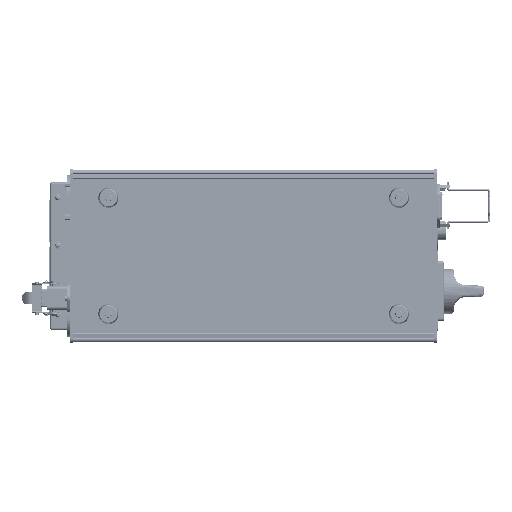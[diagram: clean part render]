
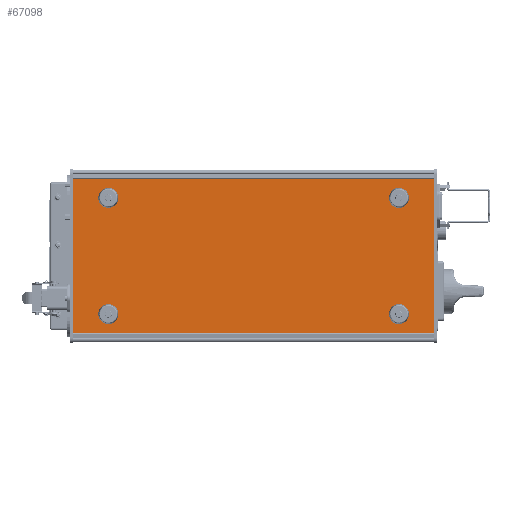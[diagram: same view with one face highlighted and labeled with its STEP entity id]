
A CAD part, front view. The second image highlights one B-rep face of the part: STEP entity #67098.
In plain terms, the highlighted planar face has unit normal (0, -1, 0).
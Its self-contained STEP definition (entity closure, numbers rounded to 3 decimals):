
#4018 = CARTESIAN_POINT ( 'NONE',  ( -142.8, 0., -58. ) ) ;
#9734 = EDGE_LOOP ( 'NONE', ( #222698 ) ) ;
#16914 = CARTESIAN_POINT ( 'NONE',  ( -142.8, 0., 58. ) ) ;
#17141 = EDGE_CURVE ( 'NONE', #32435, #405271, #77025, .T. ) ;
#19064 = ORIENTED_EDGE ( 'NONE', *, *, #17141, .F. ) ;
#26111 = EDGE_CURVE ( 'NONE', #169149, #169149, #36515, .T. ) ;
#27555 = CARTESIAN_POINT ( 'NONE',  ( -181., 0., -80. ) ) ;
#32435 = VERTEX_POINT ( 'NONE', #370078 ) ;
#36515 = CIRCLE ( 'NONE', #48698, 2.2 ) ;
#37793 = CIRCLE ( 'NONE', #211677, 2.2 ) ;
#48698 = AXIS2_PLACEMENT_3D ( 'NONE', #200575, #271531, #60111 ) ;
#55683 = VERTEX_POINT ( 'NONE', #181157 ) ;
#60111 = DIRECTION ( 'NONE',  ( 1., 0., 0. ) ) ;
#61796 = EDGE_CURVE ( 'NONE', #234707, #32435, #141661, .T. ) ;
#64508 = PLANE ( 'NONE',  #326201 ) ;
#67098 = ADVANCED_FACE ( 'NONE', ( #285343, #74772, #447181, #398679, #441984 ), #64508, .F. ) ;
#74772 = FACE_BOUND ( 'NONE', #174752, .T. ) ;
#77025 = LINE ( 'NONE', #309880, #319972 ) ;
#82076 = DIRECTION ( 'NONE',  ( 1., 0., 0. ) ) ;
#102562 = CARTESIAN_POINT ( 'NONE',  ( 181., 0., -80. ) ) ;
#103131 = DIRECTION ( 'NONE',  ( 0., 0., -1. ) ) ;
#105044 = EDGE_CURVE ( 'NONE', #405271, #330094, #147131, .T. ) ;
#111579 = EDGE_CURVE ( 'NONE', #287902, #287902, #255804, .T. ) ;
#118987 = VERTEX_POINT ( 'NONE', #4018 ) ;
#120269 = CARTESIAN_POINT ( 'NONE',  ( -145., 0., -58. ) ) ;
#122235 = CARTESIAN_POINT ( 'NONE',  ( -181., 0., 80. ) ) ;
#141661 = LINE ( 'NONE', #122235, #249680 ) ;
#147131 = LINE ( 'NONE', #102562, #428041 ) ;
#153095 = EDGE_CURVE ( 'NONE', #55683, #55683, #37793, .T. ) ;
#169149 = VERTEX_POINT ( 'NONE', #16914 ) ;
#170202 = ORIENTED_EDGE ( 'NONE', *, *, #244231, .F. ) ;
#174752 = EDGE_LOOP ( 'NONE', ( #330811 ) ) ;
#175812 = DIRECTION ( 'NONE',  ( 0., 1., 0. ) ) ;
#181157 = CARTESIAN_POINT ( 'NONE',  ( 147.2, 0., 58. ) ) ;
#190794 = ORIENTED_EDGE ( 'NONE', *, *, #105044, .F. ) ;
#199815 = DIRECTION ( 'NONE',  ( 0., 0., 1. ) ) ;
#200575 = CARTESIAN_POINT ( 'NONE',  ( -145., 0., 58. ) ) ;
#203193 = ORIENTED_EDGE ( 'NONE', *, *, #26111, .T. ) ;
#206374 = CARTESIAN_POINT ( 'NONE',  ( -181., 0., 80. ) ) ;
#211677 = AXIS2_PLACEMENT_3D ( 'NONE', #222547, #290425, #82076 ) ;
#222547 = CARTESIAN_POINT ( 'NONE',  ( 145., 0., 58. ) ) ;
#222698 = ORIENTED_EDGE ( 'NONE', *, *, #153095, .T. ) ;
#234707 = VERTEX_POINT ( 'NONE', #206374 ) ;
#238222 = DIRECTION ( 'NONE',  ( 1., 0., 0. ) ) ;
#244231 = EDGE_CURVE ( 'NONE', #330094, #234707, #445898, .T. ) ;
#249680 = VECTOR ( 'NONE', #363716, 1000. ) ;
#255804 = CIRCLE ( 'NONE', #335743, 2.2 ) ;
#257283 = VECTOR ( 'NONE', #199815, 1000. ) ;
#271531 = DIRECTION ( 'NONE',  ( 0., 1., 0. ) ) ;
#280460 = ORIENTED_EDGE ( 'NONE', *, *, #397261, .T. ) ;
#283977 = CARTESIAN_POINT ( 'NONE',  ( -181., 0., -80. ) ) ;
#285343 = FACE_BOUND ( 'NONE', #365357, .T. ) ;
#287902 = VERTEX_POINT ( 'NONE', #445242 ) ;
#288533 = CIRCLE ( 'NONE', #434789, 2.2 ) ;
#289340 = EDGE_LOOP ( 'NONE', ( #203193 ) ) ;
#290425 = DIRECTION ( 'NONE',  ( 0., 1., 0. ) ) ;
#309880 = CARTESIAN_POINT ( 'NONE',  ( 181., 0., 80. ) ) ;
#316187 = CARTESIAN_POINT ( 'NONE',  ( 181., 0., -80. ) ) ;
#319972 = VECTOR ( 'NONE', #103131, 1000. ) ;
#325491 = DIRECTION ( 'NONE',  ( 0., 1., 0. ) ) ;
#326201 = AXIS2_PLACEMENT_3D ( 'NONE', #372473, #342191, #238222 ) ;
#329046 = EDGE_LOOP ( 'NONE', ( #190794, #19064, #398601, #170202 ) ) ;
#330094 = VERTEX_POINT ( 'NONE', #283977 ) ;
#330811 = ORIENTED_EDGE ( 'NONE', *, *, #111579, .T. ) ;
#335743 = AXIS2_PLACEMENT_3D ( 'NONE', #383861, #175812, #380908 ) ;
#342191 = DIRECTION ( 'NONE',  ( 0., 1., 0. ) ) ;
#360215 = DIRECTION ( 'NONE',  ( 1., 0., 0. ) ) ;
#363716 = DIRECTION ( 'NONE',  ( 1., 0., 0. ) ) ;
#365357 = EDGE_LOOP ( 'NONE', ( #280460 ) ) ;
#370078 = CARTESIAN_POINT ( 'NONE',  ( 181., 0., 80. ) ) ;
#372473 = CARTESIAN_POINT ( 'NONE',  ( 0., 0., 0. ) ) ;
#380908 = DIRECTION ( 'NONE',  ( 1., 0., 0. ) ) ;
#383861 = CARTESIAN_POINT ( 'NONE',  ( 145., 0., -58. ) ) ;
#397261 = EDGE_CURVE ( 'NONE', #118987, #118987, #288533, .T. ) ;
#398601 = ORIENTED_EDGE ( 'NONE', *, *, #61796, .F. ) ;
#398679 = FACE_BOUND ( 'NONE', #9734, .T. ) ;
#405271 = VERTEX_POINT ( 'NONE', #316187 ) ;
#413415 = DIRECTION ( 'NONE',  ( -1., 0., 0. ) ) ;
#428041 = VECTOR ( 'NONE', #413415, 1000. ) ;
#434789 = AXIS2_PLACEMENT_3D ( 'NONE', #120269, #325491, #360215 ) ;
#441984 = FACE_OUTER_BOUND ( 'NONE', #329046, .T. ) ;
#445242 = CARTESIAN_POINT ( 'NONE',  ( 147.2, 0., -58. ) ) ;
#445898 = LINE ( 'NONE', #27555, #257283 ) ;
#447181 = FACE_BOUND ( 'NONE', #289340, .T. ) ;
